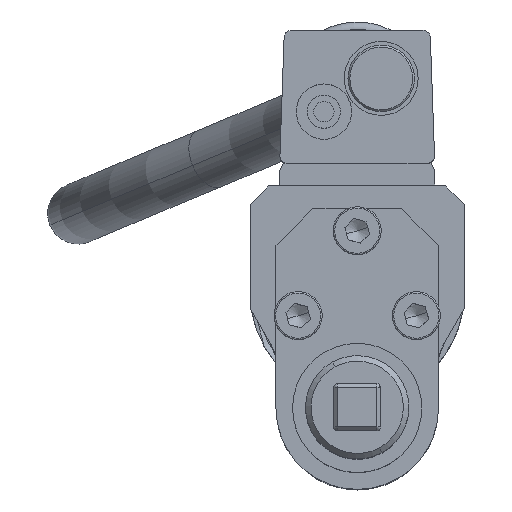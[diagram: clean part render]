
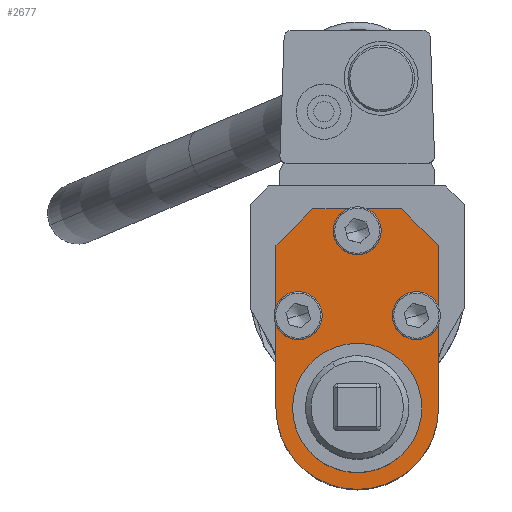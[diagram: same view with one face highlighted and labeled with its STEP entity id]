
A CAD part, top view. The second image highlights one B-rep face of the part: STEP entity #2677.
In plain terms, the highlighted planar face has unit normal (0, 0, 1).
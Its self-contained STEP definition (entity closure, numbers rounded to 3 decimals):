
#2406=CARTESIAN_POINT('Vertex',(17.5,-31.32,385.2)) ;
#2411=CARTESIAN_POINT('Axis2P3D Location',(0.,-31.32,385.2)) ;
#2415=CARTESIAN_POINT('Vertex',(-17.5,-31.32,385.2)) ;
#2437=CARTESIAN_POINT('Axis2P3D Location',(0.,-31.32,385.2)) ;
#2540=CARTESIAN_POINT('Axis2P3D Location',(16.,-6.32,385.2)) ;
#2544=CARTESIAN_POINT('Vertex',(12.206,-4.247,385.2)) ;
#2546=CARTESIAN_POINT('Vertex',(19.794,-8.393,385.2)) ;
#2566=CARTESIAN_POINT('Axis2P3D Location',(16.,-6.32,385.2)) ;
#2578=CARTESIAN_POINT('Axis2P3D Location',(0.,2.78,385.2)) ;
#2583=CARTESIAN_POINT('Line Origine',(-17.,17.68,385.2)) ;
#2587=CARTESIAN_POINT('Vertex',(-12.,22.68,385.2)) ;
#2589=CARTESIAN_POINT('Vertex',(-22.,12.68,385.2)) ;
#2592=CARTESIAN_POINT('Line Origine',(-22.,-9.32,385.2)) ;
#2596=CARTESIAN_POINT('Vertex',(-22.,-31.32,385.2)) ;
#2599=CARTESIAN_POINT('Axis2P3D Location',(0.,-31.32,385.2)) ;
#2603=CARTESIAN_POINT('Vertex',(22.,-31.32,385.2)) ;
#2606=CARTESIAN_POINT('Line Origine',(22.,-9.32,385.2)) ;
#2610=CARTESIAN_POINT('Vertex',(22.,12.68,385.2)) ;
#2613=CARTESIAN_POINT('Line Origine',(17.,17.68,385.2)) ;
#2617=CARTESIAN_POINT('Vertex',(12.,22.68,385.2)) ;
#2620=CARTESIAN_POINT('Line Origine',(0.,22.68,385.2)) ;
#2641=CARTESIAN_POINT('Axis2P3D Location',(-16.,-6.32,385.2)) ;
#2645=CARTESIAN_POINT('Vertex',(-19.794,-4.247,385.2)) ;
#2647=CARTESIAN_POINT('Vertex',(-12.206,-8.393,385.2)) ;
#2650=CARTESIAN_POINT('Axis2P3D Location',(-16.,-6.32,385.2)) ;
#2659=CARTESIAN_POINT('Axis2P3D Location',(0.,16.68,385.2)) ;
#2663=CARTESIAN_POINT('Vertex',(-3.794,18.753,385.2)) ;
#2665=CARTESIAN_POINT('Vertex',(3.794,14.607,385.2)) ;
#2668=CARTESIAN_POINT('Axis2P3D Location',(0.,16.68,385.2)) ;
#2412=DIRECTION('Axis2P3D Direction',(0.,0.,1.)) ;
#2438=DIRECTION('Axis2P3D Direction',(0.,0.,1.)) ;
#2541=DIRECTION('Axis2P3D Direction',(0.,0.,1.)) ;
#2567=DIRECTION('Axis2P3D Direction',(0.,0.,1.)) ;
#2579=DIRECTION('Axis2P3D Direction',(0.,0.,1.)) ;
#2580=DIRECTION('Axis2P3D XDirection',(1.,0.,0.)) ;
#2584=DIRECTION('Vector Direction',(-0.707,-0.707,0.)) ;
#2593=DIRECTION('Vector Direction',(0.,1.,0.)) ;
#2600=DIRECTION('Axis2P3D Direction',(0.,0.,1.)) ;
#2607=DIRECTION('Vector Direction',(0.,-1.,0.)) ;
#2614=DIRECTION('Vector Direction',(0.707,-0.707,0.)) ;
#2621=DIRECTION('Vector Direction',(1.,0.,0.)) ;
#2642=DIRECTION('Axis2P3D Direction',(0.,0.,1.)) ;
#2651=DIRECTION('Axis2P3D Direction',(0.,0.,1.)) ;
#2660=DIRECTION('Axis2P3D Direction',(0.,0.,1.)) ;
#2669=DIRECTION('Axis2P3D Direction',(0.,0.,1.)) ;
#2413=AXIS2_PLACEMENT_3D('Circle Axis2P3D',#2411,#2412,$) ;
#2439=AXIS2_PLACEMENT_3D('Circle Axis2P3D',#2437,#2438,$) ;
#2542=AXIS2_PLACEMENT_3D('Circle Axis2P3D',#2540,#2541,$) ;
#2568=AXIS2_PLACEMENT_3D('Circle Axis2P3D',#2566,#2567,$) ;
#2581=AXIS2_PLACEMENT_3D('Plane Axis2P3D',#2578,#2579,#2580) ;
#2601=AXIS2_PLACEMENT_3D('Circle Axis2P3D',#2599,#2600,$) ;
#2643=AXIS2_PLACEMENT_3D('Circle Axis2P3D',#2641,#2642,$) ;
#2652=AXIS2_PLACEMENT_3D('Circle Axis2P3D',#2650,#2651,$) ;
#2661=AXIS2_PLACEMENT_3D('Circle Axis2P3D',#2659,#2660,$) ;
#2670=AXIS2_PLACEMENT_3D('Circle Axis2P3D',#2668,#2669,$) ;
#2626=ORIENTED_EDGE('',*,*,#2591,.T.) ;
#2627=ORIENTED_EDGE('',*,*,#2598,.T.) ;
#2628=ORIENTED_EDGE('',*,*,#2605,.T.) ;
#2629=ORIENTED_EDGE('',*,*,#2612,.T.) ;
#2630=ORIENTED_EDGE('',*,*,#2619,.T.) ;
#2631=ORIENTED_EDGE('',*,*,#2624,.T.) ;
#2634=ORIENTED_EDGE('',*,*,#2417,.F.) ;
#2635=ORIENTED_EDGE('',*,*,#2441,.F.) ;
#2638=ORIENTED_EDGE('',*,*,#2548,.F.) ;
#2639=ORIENTED_EDGE('',*,*,#2570,.F.) ;
#2656=ORIENTED_EDGE('',*,*,#2649,.F.) ;
#2657=ORIENTED_EDGE('',*,*,#2654,.F.) ;
#2674=ORIENTED_EDGE('',*,*,#2667,.F.) ;
#2675=ORIENTED_EDGE('',*,*,#2672,.F.) ;
#2636=FACE_BOUND('',#2633,.T.) ;
#2640=FACE_BOUND('',#2637,.T.) ;
#2658=FACE_BOUND('',#2655,.T.) ;
#2676=FACE_BOUND('',#2673,.T.) ;
#2585=VECTOR('Line Direction',#2584,1.) ;
#2594=VECTOR('Line Direction',#2593,1.) ;
#2608=VECTOR('Line Direction',#2607,1.) ;
#2615=VECTOR('Line Direction',#2614,1.) ;
#2622=VECTOR('Line Direction',#2621,1.) ;
#2677=ADVANCED_FACE('',(#2632,#2636,#2640,#2658,#2676),#2582,.T.) ;
#2414=CIRCLE('generated circle',#2413,17.5) ;
#2440=CIRCLE('generated circle',#2439,17.5) ;
#2543=CIRCLE('generated circle',#2542,4.324) ;
#2569=CIRCLE('generated circle',#2568,4.324) ;
#2602=CIRCLE('generated circle',#2601,22.) ;
#2644=CIRCLE('generated circle',#2643,4.324) ;
#2653=CIRCLE('generated circle',#2652,4.324) ;
#2662=CIRCLE('generated circle',#2661,4.324) ;
#2671=CIRCLE('generated circle',#2670,4.324) ;
#2417=EDGE_CURVE('',#2407,#2416,#2414,.T.) ;
#2441=EDGE_CURVE('',#2416,#2407,#2440,.T.) ;
#2548=EDGE_CURVE('',#2545,#2547,#2543,.T.) ;
#2570=EDGE_CURVE('',#2547,#2545,#2569,.T.) ;
#2591=EDGE_CURVE('',#2588,#2590,#2586,.T.) ;
#2598=EDGE_CURVE('',#2590,#2597,#2595,.F.) ;
#2605=EDGE_CURVE('',#2597,#2604,#2602,.T.) ;
#2612=EDGE_CURVE('',#2604,#2611,#2609,.F.) ;
#2619=EDGE_CURVE('',#2611,#2618,#2616,.F.) ;
#2624=EDGE_CURVE('',#2618,#2588,#2623,.F.) ;
#2649=EDGE_CURVE('',#2646,#2648,#2644,.T.) ;
#2654=EDGE_CURVE('',#2648,#2646,#2653,.T.) ;
#2667=EDGE_CURVE('',#2664,#2666,#2662,.T.) ;
#2672=EDGE_CURVE('',#2666,#2664,#2671,.T.) ;
#2625=EDGE_LOOP('',(#2626,#2627,#2628,#2629,#2630,#2631)) ;
#2633=EDGE_LOOP('',(#2634,#2635)) ;
#2637=EDGE_LOOP('',(#2638,#2639)) ;
#2655=EDGE_LOOP('',(#2656,#2657)) ;
#2673=EDGE_LOOP('',(#2674,#2675)) ;
#2632=FACE_OUTER_BOUND('',#2625,.T.) ;
#2586=LINE('Line',#2583,#2585) ;
#2595=LINE('Line',#2592,#2594) ;
#2609=LINE('Line',#2606,#2608) ;
#2616=LINE('Line',#2613,#2615) ;
#2623=LINE('Line',#2620,#2622) ;
#2582=PLANE('Plane',#2581) ;
#2407=VERTEX_POINT('',#2406) ;
#2416=VERTEX_POINT('',#2415) ;
#2545=VERTEX_POINT('',#2544) ;
#2547=VERTEX_POINT('',#2546) ;
#2588=VERTEX_POINT('',#2587) ;
#2590=VERTEX_POINT('',#2589) ;
#2597=VERTEX_POINT('',#2596) ;
#2604=VERTEX_POINT('',#2603) ;
#2611=VERTEX_POINT('',#2610) ;
#2618=VERTEX_POINT('',#2617) ;
#2646=VERTEX_POINT('',#2645) ;
#2648=VERTEX_POINT('',#2647) ;
#2664=VERTEX_POINT('',#2663) ;
#2666=VERTEX_POINT('',#2665) ;
